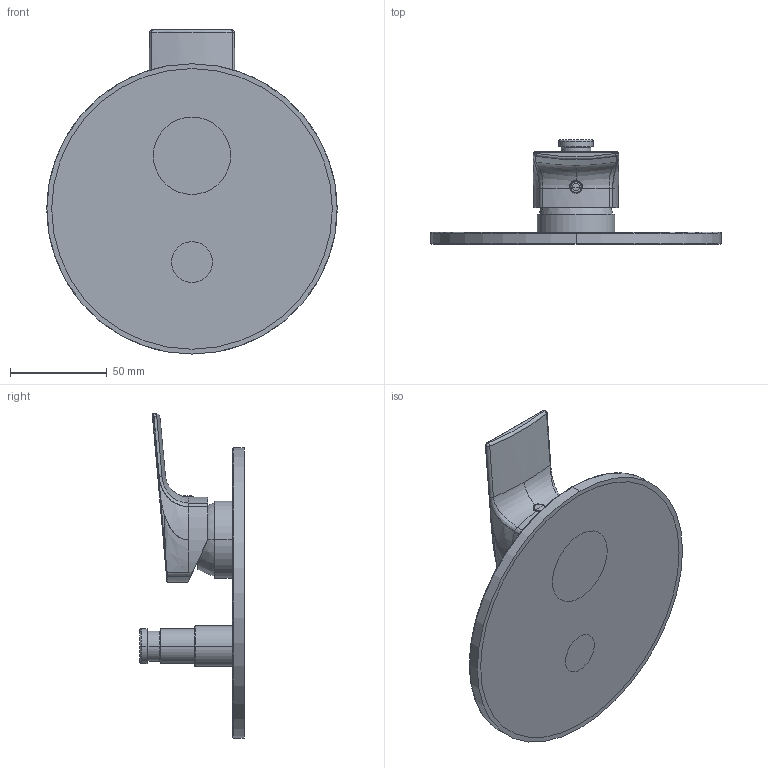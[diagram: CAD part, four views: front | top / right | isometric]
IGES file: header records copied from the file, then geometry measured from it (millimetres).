
Start section:  PTC IGES file: 3d_sw0003.igs
Global section: file name: 3d_sw0003.igs; native system: Creo Parametric by PTC Inc.; preprocessor: 2022014; author: volponeff; organization: Unknown; date: 20251010.100754; units: millimetre
Bounding box: 150 x 53.9 x 167.5 mm (x, y, z)
Surface area: 90249.4 mm2 (no closed solid volume)
Topology: 0 solids, 0 shells, 287 faces, 1432 edges, 1428 vertices
Faces by surface type: revolution 159, bspline 128
